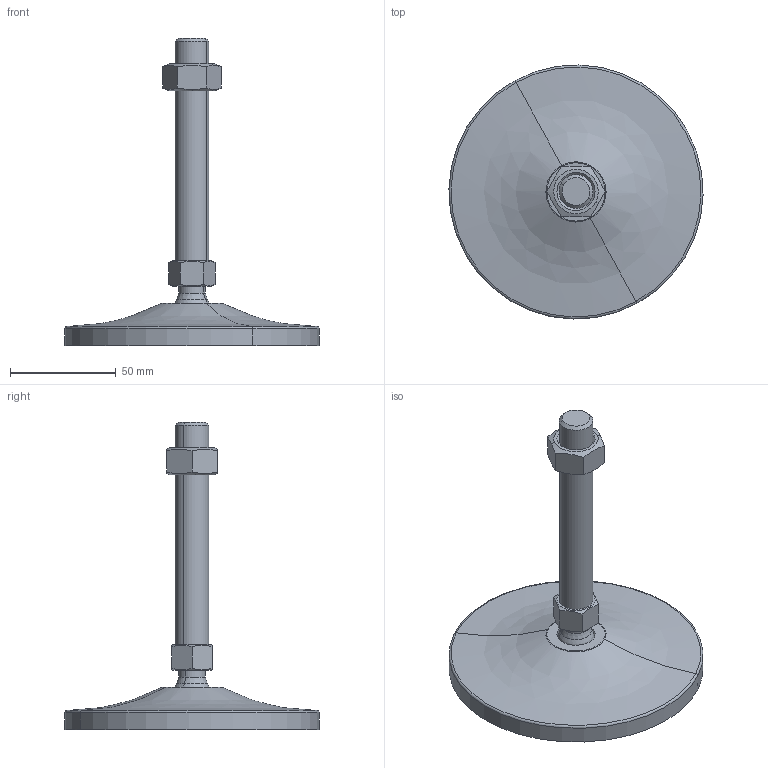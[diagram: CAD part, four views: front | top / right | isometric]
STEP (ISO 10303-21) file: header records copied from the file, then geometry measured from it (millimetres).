
FILE_DESCRIPTION(('CATIA V5 STEP Exchange'),'2;1');
FILE_NAME('C:\Users\ALI OZGUN\Desktop\alhan\saplama2\560121615.stp','2017-09-21T10:35:39+00:00',('none'),('none'),'CATIA Version 5 Release 21 GA (IN-10)','CATIA V5 STEP AP203','none');
FILE_SCHEMA(('CONFIG_CONTROL_DESIGN'));
Length unit declared in the file: millimetre
Products named in the file (1): 560121615
Bounding box: 119.97 x 119.97 x 145 mm (x, y, z)
Volume: 116250.8 mm3; surface area: 37856.7 mm2
Topology: 3 solids, 3 shells, 60 faces, 136 edges, 83 vertices
Faces by surface type: plane 20, cone 16, cylinder 14, torus 4, revolution 4, sphere 2
Entity records: 1857 total; most frequent: CARTESIAN_POINT 615, ORIENTED_EDGE 268, DIRECTION 185, EDGE_CURVE 134, AXIS2_PLACEMENT_3D 99, VERTEX_POINT 83, EDGE_LOOP 67, ADVANCED_FACE 60
